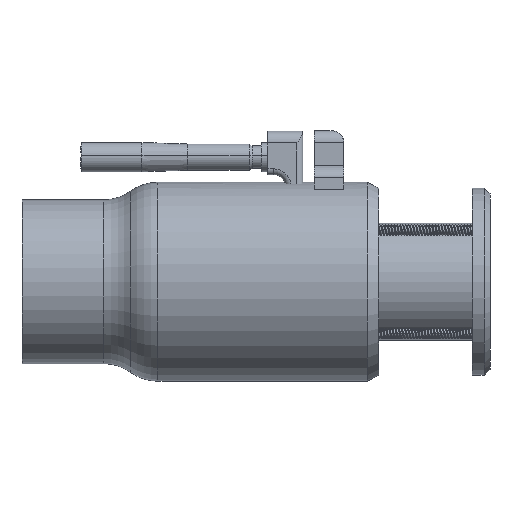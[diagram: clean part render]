
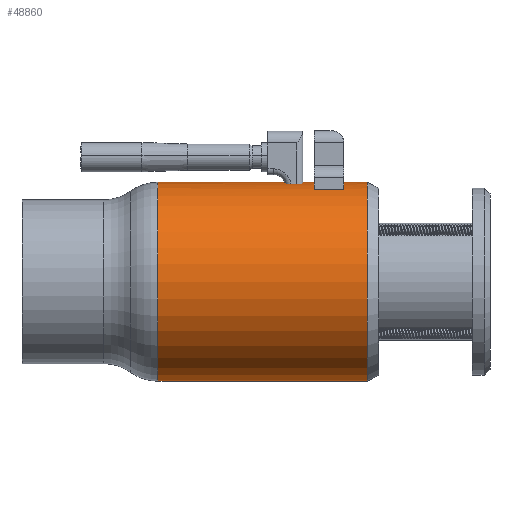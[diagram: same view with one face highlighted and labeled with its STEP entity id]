
A CAD part, left-side view. The second image highlights one B-rep face of the part: STEP entity #48860.
In plain terms, the highlighted cylindrical face has radius 53.975 mm (diameter 107.95 mm), a partial arc.
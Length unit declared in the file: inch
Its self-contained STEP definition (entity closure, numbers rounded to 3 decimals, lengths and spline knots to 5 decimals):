
#911 = DIRECTION ( 'NONE',  ( 0., -1., 0. ) ) ;
#1596 = EDGE_LOOP ( 'NONE', ( #56197, #20263, #16112, #37471, #27072, #59700, #35154, #73282 ) ) ;
#1635 = CYLINDRICAL_SURFACE ( 'NONE', #47925, 2.125 ) ;
#1902 = CARTESIAN_POINT ( 'NONE',  ( 0., 4.71908, 2.125 ) ) ;
#1980 = LINE ( 'NONE', #42201, #46976 ) ;
#3785 = DIRECTION ( 'NONE',  ( 0., 1., 0. ) ) ;
#4081 = CIRCLE ( 'NONE', #75042, 2.125 ) ;
#4523 = LINE ( 'NONE', #15583, #14595 ) ;
#5657 = VERTEX_POINT ( 'NONE', #49462 ) ;
#7079 = VECTOR ( 'NONE', #34997, 39.37008 ) ;
#8076 = AXIS2_PLACEMENT_3D ( 'NONE', #71571, #36323, #65876 ) ;
#9055 = VERTEX_POINT ( 'NONE', #1902 ) ;
#9667 = DIRECTION ( 'NONE',  ( 0., 0., -1. ) ) ;
#10060 = EDGE_CURVE ( 'NONE', #23644, #15698, #4523, .T. ) ;
#11150 = CARTESIAN_POINT ( 'NONE',  ( -0.78422, 0., 1.975 ) ) ;
#11180 = DIRECTION ( 'NONE',  ( 0., -1., 0. ) ) ;
#14595 = VECTOR ( 'NONE', #27898, 39.37008 ) ;
#15347 = CIRCLE ( 'NONE', #28791, 2.125 ) ;
#15583 = CARTESIAN_POINT ( 'NONE',  ( 0., 0., 2.125 ) ) ;
#15698 = VERTEX_POINT ( 'NONE', #31008 ) ;
#16112 = ORIENTED_EDGE ( 'NONE', *, *, #37009, .T. ) ;
#20193 = DIRECTION ( 'NONE',  ( 0., -1., 0. ) ) ;
#20263 = ORIENTED_EDGE ( 'NONE', *, *, #75793, .T. ) ;
#20459 = DIRECTION ( 'NONE',  ( 0., 0., -1. ) ) ;
#22675 = LINE ( 'NONE', #11150, #7079 ) ;
#23644 = VERTEX_POINT ( 'NONE', #73448 ) ;
#27072 = ORIENTED_EDGE ( 'NONE', *, *, #10060, .F. ) ;
#27348 = CARTESIAN_POINT ( 'NONE',  ( -0.78422, 1.375, 1.975 ) ) ;
#27898 = DIRECTION ( 'NONE',  ( 0., -1., 0. ) ) ;
#28791 = AXIS2_PLACEMENT_3D ( 'NONE', #56142, #3785, #9667 ) ;
#29239 = CIRCLE ( 'NONE', #59747, 2.125 ) ;
#31008 = CARTESIAN_POINT ( 'NONE',  ( 0., 0.25, 2.125 ) ) ;
#31712 = CARTESIAN_POINT ( 'NONE',  ( -0.78422, 0.75, 1.975 ) ) ;
#32345 = VERTEX_POINT ( 'NONE', #31712 ) ;
#32912 = CIRCLE ( 'NONE', #8076, 2.125 ) ;
#33064 = VERTEX_POINT ( 'NONE', #27348 ) ;
#34997 = DIRECTION ( 'NONE',  ( 0., 1., 0. ) ) ;
#35154 = ORIENTED_EDGE ( 'NONE', *, *, #59536, .T. ) ;
#36323 = DIRECTION ( 'NONE',  ( 0., -1., 0. ) ) ;
#36475 = EDGE_CURVE ( 'NONE', #9055, #39523, #63466, .T. ) ;
#37009 = EDGE_CURVE ( 'NONE', #51771, #5657, #1980, .T. ) ;
#37471 = ORIENTED_EDGE ( 'NONE', *, *, #68322, .T. ) ;
#38664 = CARTESIAN_POINT ( 'NONE',  ( 0., 0.25, 0. ) ) ;
#38691 = VECTOR ( 'NONE', #11180, 39.37008 ) ;
#39523 = VERTEX_POINT ( 'NONE', #57020 ) ;
#42036 = CARTESIAN_POINT ( 'NONE',  ( 0., 4.71908, -2.125 ) ) ;
#42201 = CARTESIAN_POINT ( 'NONE',  ( 0., 0., -2.125 ) ) ;
#46067 = CARTESIAN_POINT ( 'NONE',  ( 0., 0., 2.125 ) ) ;
#46976 = VECTOR ( 'NONE', #911, 39.37008 ) ;
#47925 = AXIS2_PLACEMENT_3D ( 'NONE', #52759, #64574, #70268 ) ;
#48860 = ADVANCED_FACE ( 'Defeatured_3_0', ( #72363 ), #1635, .T. ) ;
#49462 = CARTESIAN_POINT ( 'NONE',  ( 0., 0.25, -2.125 ) ) ;
#51771 = VERTEX_POINT ( 'NONE', #42036 ) ;
#52759 = CARTESIAN_POINT ( 'NONE',  ( 0., 0., 0. ) ) ;
#54008 = EDGE_CURVE ( 'Defeatured_3_8+Defeatured_3_0+Defeatured_3_9+Defeatured_3_9', #32345, #23644, #15347, .T. ) ;
#55867 = DIRECTION ( 'NONE',  ( 0., 1., 0. ) ) ;
#56142 = CARTESIAN_POINT ( 'NONE',  ( 0., 0.75, 0. ) ) ;
#56197 = ORIENTED_EDGE ( 'NONE', *, *, #36475, .F. ) ;
#57020 = CARTESIAN_POINT ( 'NONE',  ( 0., 1.375, 2.125 ) ) ;
#59536 = EDGE_CURVE ( 'Defeatured_3_0+Defeatured_3_9+Defeatured_3_8+Defeatured_3_7', #32345, #33064, #22675, .T. ) ;
#59700 = ORIENTED_EDGE ( 'NONE', *, *, #54008, .F. ) ;
#59747 = AXIS2_PLACEMENT_3D ( 'NONE', #38664, #55867, #67711 ) ;
#63466 = LINE ( 'NONE', #46067, #38691 ) ;
#64574 = DIRECTION ( 'NONE',  ( 0., -1., 0. ) ) ;
#65876 = DIRECTION ( 'NONE',  ( 0., 0., 1. ) ) ;
#67711 = DIRECTION ( 'NONE',  ( 0., 0., -1. ) ) ;
#68322 = EDGE_CURVE ( 'Defeatured_3_0+Defeatured_3_6+Defeatured_3_6+Defeatured_3_6', #5657, #15698, #29239, .T. ) ;
#70268 = DIRECTION ( 'NONE',  ( 0., 0., -1. ) ) ;
#71571 = CARTESIAN_POINT ( 'NONE',  ( 0., 1.375, 0. ) ) ;
#72363 = FACE_OUTER_BOUND ( 'NONE', #1596, .T. ) ;
#73282 = ORIENTED_EDGE ( 'NONE', *, *, #73826, .F. ) ;
#73401 = CARTESIAN_POINT ( 'NONE',  ( 0., 4.71908, 0. ) ) ;
#73448 = CARTESIAN_POINT ( 'NONE',  ( 0., 0.75, 2.125 ) ) ;
#73826 = EDGE_CURVE ( 'Defeatured_3_7+Defeatured_3_0+Defeatured_3_9+Defeatured_3_9', #39523, #33064, #32912, .T. ) ;
#75042 = AXIS2_PLACEMENT_3D ( 'NONE', #73401, #20193, #20459 ) ;
#75793 = EDGE_CURVE ( 'Defeatured_3_0+Defeatured_3_2+Defeatured_3_2+Defeatured_3_2', #9055, #51771, #4081, .T. ) ;
